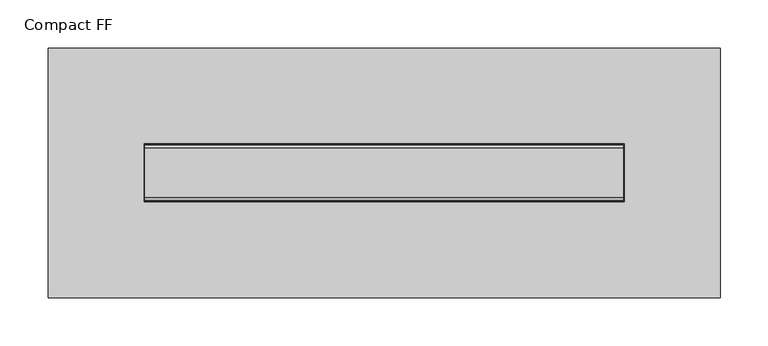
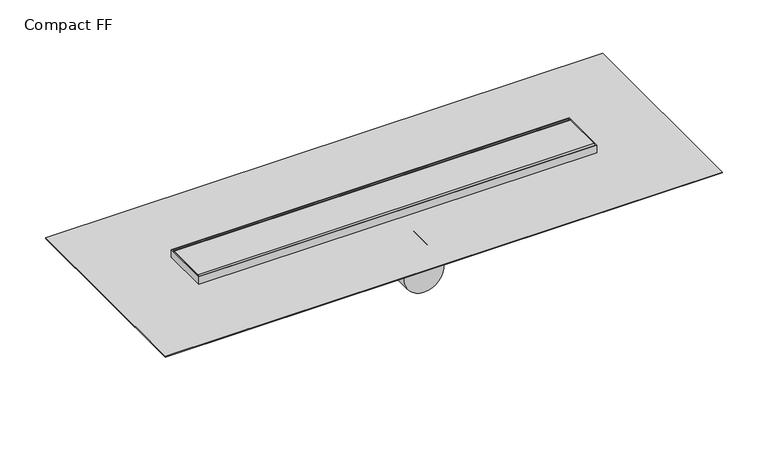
"""IFC4 building model written with IfcOpenShell, lengths in millimetres: sanitary terminal geometry, NLRS_PF_52_UN_Compact_Easydrain : Compact FF."""

from ifc_helpers import new_model, si_unit, point, frame, frame_2d, origin, place, context, project, spatial, polyline, circle_curve, trimmed, segment, composite_curve, outline, extrude, source, transform, mapped, element, save
from ifc_brep_helpers import plane_surface, cylinder_surface, advanced_brep


def compact_ff_16e5568f(model_context):
    return source(origin(), model_context, "Body", "SolidModel", [
        extrude(outline(composite_curve([segment(polyline([(-25.5, 0.0), (25.5, 0.0)]), True, "CONTINUOUS"), segment(trimmed(circle_curve(frame_2d((25.5, -3.0)), 3.0), [point((25.5, 0.0))], [point((28.5, -3.0))], False, "CARTESIAN"), True, "CONTINUOUS"), segment(polyline([(28.5, -3.0), (28.5, -12.0), (-28.5, -12.0), (-28.5, -3.0)]), True, "CONTINUOUS"), segment(trimmed(circle_curve(frame_2d((-25.5, -3.0)), 3.0), [point((-28.5, -3.0))], [point((-25.5, 0.0))], False, "CARTESIAN"), True, "CONTINUOUS")], self_intersect=False)), frame((-249.0, 0.0, 0.0), z_axis=(1.0, 0.0, 0.0), x_axis=(0.0, 1.0, 0.0)), (0.0, 0.0, 1.0), 498.0),
        extrude(outline(composite_curve([segment(trimmed(circle_curve(frame_2d((190.0, 0.0)), 20.0), [point((210.0, 0.0))], [point((170.0, 0.0))], False, "CARTESIAN"), True, "CONTINUOUS"), segment(trimmed(circle_curve(frame_2d((190.0, 0.0)), 20.0), [point((170.0, 0.0))], [point((210.0, 0.0))], False, "CARTESIAN"), True, "CONTINUOUS")], self_intersect=False)), frame((0.0, 0.0, -81.0), z_axis=(0.0, 0.0, 1.0), x_axis=(1.0, 0.0, 0.0)), (0.0, 0.0, 1.0), 63.0),
        extrude(outline(composite_curve([segment(trimmed(circle_curve(frame_2d((-190.0, 0.0)), 20.0), [point((-210.0, 0.0))], [point((-170.0, 0.0))], False, "CARTESIAN"), True, "CONTINUOUS"), segment(trimmed(circle_curve(frame_2d((-190.0, 0.0)), 20.0), [point((-170.0, 0.0))], [point((-210.0, 0.0))], False, "CARTESIAN"), True, "CONTINUOUS")], self_intersect=False)), frame((0.0, 0.0, -81.0), z_axis=(0.0, 0.0, 1.0), x_axis=(1.0, 0.0, 0.0)), (0.0, 0.0, 1.0), 63.0),
        extrude(outline(polyline([(350.0, 130.0), (350.0, -130.0), (-350.0, -130.0), (-350.0, 130.0), (350.0, 130.0)]), holes=[polyline([(250.0, 30.0), (-250.0, 30.0), (-250.0, -30.0), (250.0, -30.0), (250.0, 30.0)])]), frame((0.0, 0.0, -11.0), z_axis=(0.0, 0.0, 1.0), x_axis=(1.0, 0.0, 0.0)), (0.0, 0.0, 1.0), 1.0),
        advanced_brep(
        [(-250.0, -30.0, -18.0), (-110.0, -30.0, -20.0), (-110.0, -30.0, -81.0), (110.0, -30.0, -81.0), (110.0, -30.0, -20.0), (250.0, -30.0, -18.0), (250.0, -30.0, 0.0), (-250.0, -30.0, 0.0), (0.0, -30.0, -23.0), (0.0, -30.0, -73.0), (-250.0, 30.0, -18.0), (-250.0, 30.0, 0.0), (250.0, 30.0, 0.0), (250.0, 30.0, -18.0), (110.0, 30.0, -20.0), (110.0, 30.0, -81.0), (-110.0, 30.0, -81.0), (-110.0, 30.0, -20.0), (-249.0, 29.0, 0.0), (249.0, 29.0, 0.0), (249.0, -29.0, 0.0), (-249.0, -29.0, 0.0), (0.0, -87.0466767, -23.0), (0.0, -87.0466767, -73.0), (249.0, 29.0, -12.0), (-249.0, 29.0, -12.0), (-249.0, -29.0, -12.0), (249.0, -29.0, -12.0)],
        [
            (0, 1),
            (1, 2),
            (2, 3),
            (3, 4),
            (4, 5),
            (5, 6),
            (6, 7),
            (7, 0),
            (8, 9, circle_curve(frame((0.0, -30.0, -48.0), z_axis=(0.0, 1.0, 0.0), x_axis=(0.0, 0.0, -1.0)), 25.0)),
            (9, 8, circle_curve(frame((0.0, -30.0, -48.0), z_axis=(0.0, 1.0, 0.0), x_axis=(0.0, 0.0, -1.0)), 25.0)),
            (10, 11),
            (11, 12),
            (12, 13),
            (13, 14),
            (14, 15),
            (15, 16),
            (16, 17),
            (17, 10),
            (0, 10),
            (17, 1),
            (5, 13),
            (12, 6),
            (11, 7),
            (18, 19),
            (19, 20),
            (20, 21),
            (21, 18),
            (16, 2),
            (15, 3),
            (14, 4),
            (22, 23, circle_curve(frame((0.0, -87.0466767, -48.0), z_axis=(0.0, -1.0, 0.0), x_axis=(0.0, 0.0, -1.0)), 25.0)),
            (23, 22, circle_curve(frame((0.0, -87.0466767, -48.0), z_axis=(0.0, -1.0, 0.0), x_axis=(0.0, 0.0, -1.0)), 25.0)),
            (23, 9),
            (8, 22),
            (24, 25),
            (25, 26),
            (26, 27),
            (27, 24),
            (24, 19),
            (18, 25),
            (21, 26),
            (20, 27),
        ],
        [
            plane_surface(frame((-250.0, -30.0, -18.0), z_axis=(0.0, -1.0, 0.0), x_axis=(0.99989797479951, 0.0, -0.014284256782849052))),
            plane_surface(frame((-250.0, 30.0, -18.0), z_axis=(0.0, 1.0, 0.0), x_axis=(-0.99989797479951, 0.0, 0.014284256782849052))),
            plane_surface(frame((-250.0, -30.0, -18.0), z_axis=(-0.014284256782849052, 0.0, -0.99989797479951), x_axis=(0.0, 1.0, 0.0))),
            plane_surface(frame((250.0, -30.0, -18.0), z_axis=(1.0, 0.0, 0.0), x_axis=(0.0, 1.0, 0.0))),
            plane_surface(frame((250.0, -30.0, 0.0), z_axis=(0.0, 0.0, 1.0), x_axis=(0.0, 1.0, 0.0))),
            plane_surface(frame((-250.0, -30.0, 0.0), z_axis=(-1.0, 0.0, 0.0), x_axis=(0.0, 1.0, 0.0))),
            plane_surface(frame((-110.0, -30.0, -20.0), z_axis=(-1.0, 0.0, 0.0), x_axis=(0.0, 1.0, 0.0))),
            plane_surface(frame((-110.0, -30.0, -81.0), z_axis=(0.0, 0.0, -1.0), x_axis=(0.0, 1.0, 0.0))),
            plane_surface(frame((110.0, -30.0, -81.0), z_axis=(1.0, 0.0, 0.0), x_axis=(0.0, 1.0, 0.0))),
            plane_surface(frame((110.0, -30.0, -20.0), z_axis=(0.01428425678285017, 0.0, -0.99989797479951), x_axis=(0.0, 1.0, 0.0))),
            plane_surface(frame((0.0, -87.0466767, -48.0), z_axis=(0.0, -1.0, 0.0), x_axis=(1.0, 0.0, 0.0))),
            cylinder_surface(frame((0.0, 0.0, -48.0), z_axis=(0.0, 1.0, 0.0), x_axis=(0.0, 0.0, -1.0)), 25.0),
            plane_surface(frame((-249.0, 29.0, -12.0), z_axis=(0.0, 0.0, 1.0), x_axis=(1.0, 0.0, 0.0))),
            plane_surface(frame((249.0, 29.0, 0.0), z_axis=(0.0, -1.0, 0.0), x_axis=(0.0, 0.0, -1.0))),
            plane_surface(frame((-249.0, 29.0, 0.0), z_axis=(1.0, 0.0, 0.0), x_axis=(0.0, 0.0, -1.0))),
            plane_surface(frame((-249.0, -29.0, 0.0), z_axis=(0.0, 1.0, 0.0), x_axis=(0.0, 0.0, -1.0))),
            plane_surface(frame((249.0, -29.0, 0.0), z_axis=(-1.0, 0.0, 0.0), x_axis=(0.0, 0.0, -1.0))),
        ],
        [
            (0, [[1, 2, 3, 4, 5, 6, 7, 8], [9, 10]]),
            (1, [[11, 12, 13, 14, 15, 16, 17, 18]]),
            (2, [[-1, 19, -18, 20]]),
            (3, [[-6, 21, -13, 22]]),
            (4, [[-7, -22, -12, 23], [24, 25, 26, 27]]),
            (5, [[-8, -23, -11, -19]]),
            (6, [[-2, -20, -17, 28]]),
            (7, [[-3, -28, -16, 29]]),
            (8, [[-4, -29, -15, 30]]),
            (9, [[-5, -30, -14, -21]]),
            (10, [[31, 32]]),
            (11, [[-32, 33, -9, 34]]),
            (11, [[-31, -34, -10, -33]]),
            (12, [[35, 36, 37, 38]]),
            (13, [[-35, 39, -24, 40]]),
            (14, [[-36, -40, -27, 41]]),
            (15, [[-37, -41, -26, 42]]),
            (16, [[-38, -42, -25, -39]]),
        ],
    ),
    ])


if __name__ == "__main__":
    model = new_model("IFC4")
    model_context = context("Model", 3, world=origin())
    ifc_project = project(units=[si_unit("LENGTHUNIT", "METRE", prefix="MILLI")], contexts=[model_context])
    site = spatial("IfcSite", under=ifc_project)
    building = spatial("IfcBuilding", under=site)
    placement = place(None, origin())
    compact_ff_shape = compact_ff_16e5568f(model_context)
    element("IfcSanitaryTerminal", 1, ObjectType="NLRS_PF_52_UN_Compact_Easydrain : Compact FF", at=placement, inside=building, context=model_context, shape_type="MappedRepresentation", body=[
        mapped(compact_ff_shape, transform((0.0, 0.0, 0.0), x_axis=(1.0, 0.0, 0.0), y_axis=(0.0, 1.0, 0.0), z_axis=(0.0, 0.0, 1.0))),
    ])
    save(model, "model.ifc")
